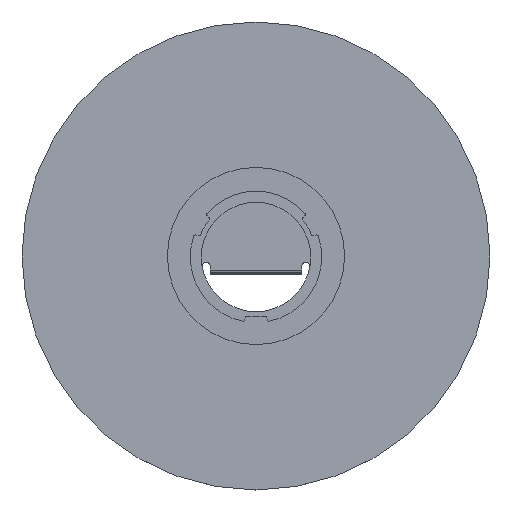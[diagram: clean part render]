
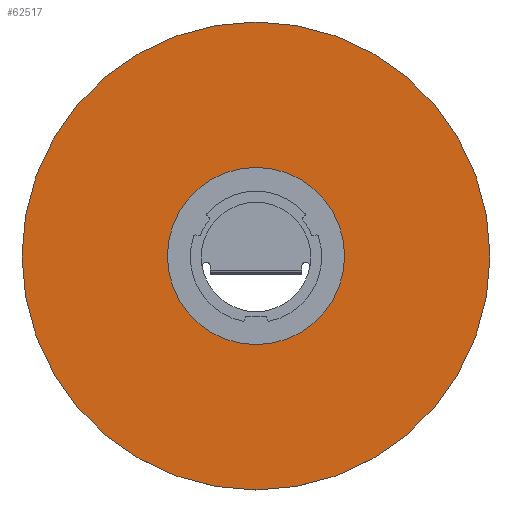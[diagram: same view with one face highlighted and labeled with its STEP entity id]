
A CAD part, top view. The second image highlights one B-rep face of the part: STEP entity #62517.
In plain terms, the highlighted planar face has unit normal (0, 0, 1).
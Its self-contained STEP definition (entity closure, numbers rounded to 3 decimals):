
#2114=PLANE('',#68284);
#2406=FACE_BOUND('',#11586,.T.);
#4948=CIRCLE('',#68279,89.);
#4950=CIRCLE('',#68282,235.);
#8122=FACE_OUTER_BOUND('',#11585,.T.);
#11585=EDGE_LOOP('',(#54981));
#11586=EDGE_LOOP('',(#54982));
#29012=VERTEX_POINT('',#107550);
#29014=VERTEX_POINT('',#107556);
#37667=EDGE_CURVE('',#29012,#29012,#4948,.T.);
#37670=EDGE_CURVE('',#29014,#29014,#4950,.T.);
#54981=ORIENTED_EDGE('',*,*,#37670,.T.);
#54982=ORIENTED_EDGE('',*,*,#37667,.T.);
#62517=ADVANCED_FACE('',(#8122,#2406),#2114,.T.);
#68279=AXIS2_PLACEMENT_3D('',#107552,#85414,#85415);
#68282=AXIS2_PLACEMENT_3D('',#107558,#85421,#85422);
#68284=AXIS2_PLACEMENT_3D('',#107560,#85425,#85426);
#85414=DIRECTION('center_axis',(0.,0.,-1.));
#85415=DIRECTION('ref_axis',(-1.,0.,0.));
#85421=DIRECTION('center_axis',(0.,0.,1.));
#85422=DIRECTION('ref_axis',(-1.,0.,0.));
#85425=DIRECTION('center_axis',(0.,0.,1.));
#85426=DIRECTION('ref_axis',(-1.,0.,0.));
#107550=CARTESIAN_POINT('',(89.,0.,813.));
#107552=CARTESIAN_POINT('Origin',(0.,0.,
813.));
#107556=CARTESIAN_POINT('',(235.,0.,813.));
#107558=CARTESIAN_POINT('Origin',(0.,0.,
813.));
#107560=CARTESIAN_POINT('Origin',(0.,0.,
813.));
